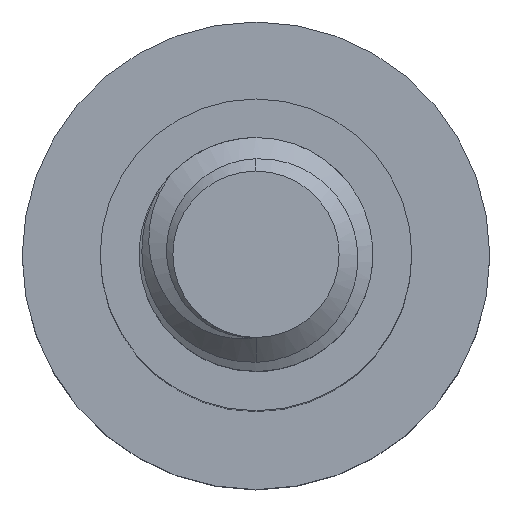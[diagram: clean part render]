
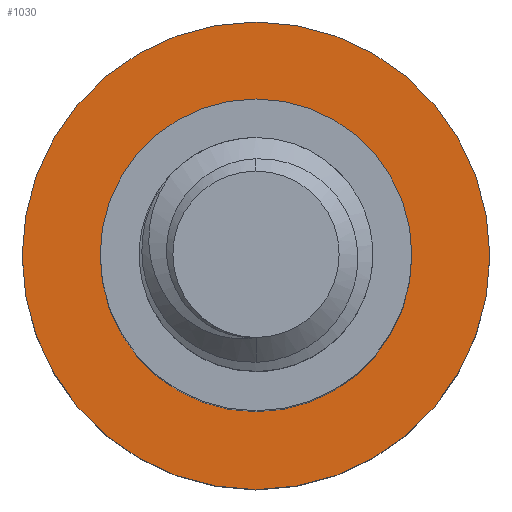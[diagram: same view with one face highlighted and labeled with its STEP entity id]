
A CAD part, top view. The second image highlights one B-rep face of the part: STEP entity #1030.
In plain terms, the highlighted planar face has unit normal (0, 0, 1).
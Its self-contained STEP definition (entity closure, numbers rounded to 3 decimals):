
#175 = EDGE_CURVE ( 'NONE', #2248, #490, #1281, .T. ) ;
#182 = CARTESIAN_POINT ( 'NONE',  ( 0., 0., -7. ) ) ;
#213 = DIRECTION ( 'NONE',  ( 0., 0., -1. ) ) ;
#221 = CARTESIAN_POINT ( 'NONE',  ( 2., 0., -7. ) ) ;
#371 = CARTESIAN_POINT ( 'NONE',  ( 3., 0., -7. ) ) ;
#388 = DIRECTION ( 'NONE',  ( -1., 0., 0. ) ) ;
#440 = ORIENTED_EDGE ( 'NONE', *, *, #1841, .F. ) ;
#462 = AXIS2_PLACEMENT_3D ( 'NONE', #1734, #2038, #488 ) ;
#465 = AXIS2_PLACEMENT_3D ( 'NONE', #1476, #1822, #1287 ) ;
#488 = DIRECTION ( 'NONE',  ( -1., 0., 0. ) ) ;
#490 = VERTEX_POINT ( 'NONE', #839 ) ;
#572 = AXIS2_PLACEMENT_3D ( 'NONE', #1775, #1592, #1917 ) ;
#576 = CARTESIAN_POINT ( 'NONE',  ( 0., 0., -7. ) ) ;
#577 = EDGE_LOOP ( 'NONE', ( #1056, #1498 ) ) ;
#604 = CIRCLE ( 'NONE', #462, 2. ) ;
#636 = CIRCLE ( 'NONE', #745, 3. ) ;
#662 = EDGE_LOOP ( 'NONE', ( #1269, #440 ) ) ;
#736 = FACE_BOUND ( 'NONE', #577, .T. ) ;
#743 = EDGE_CURVE ( 'NONE', #1357, #1575, #636, .T. ) ;
#745 = AXIS2_PLACEMENT_3D ( 'NONE', #576, #1042, #1737 ) ;
#839 = CARTESIAN_POINT ( 'NONE',  ( -2., 0., -7. ) ) ;
#847 = CIRCLE ( 'NONE', #465, 3. ) ;
#881 = PLANE ( 'NONE',  #572 ) ;
#1030 = ADVANCED_FACE ( 'NONE', ( #736, #1568 ), #881, .F. ) ;
#1042 = DIRECTION ( 'NONE',  ( 0., 0., -1. ) ) ;
#1056 = ORIENTED_EDGE ( 'NONE', *, *, #1188, .T. ) ;
#1188 = EDGE_CURVE ( 'NONE', #490, #2248, #604, .T. ) ;
#1214 = CARTESIAN_POINT ( 'NONE',  ( -3., 0., -7. ) ) ;
#1269 = ORIENTED_EDGE ( 'NONE', *, *, #743, .F. ) ;
#1281 = CIRCLE ( 'NONE', #1609, 2. ) ;
#1287 = DIRECTION ( 'NONE',  ( -1., 0., 0. ) ) ;
#1357 = VERTEX_POINT ( 'NONE', #371 ) ;
#1476 = CARTESIAN_POINT ( 'NONE',  ( 0., 0., -7. ) ) ;
#1498 = ORIENTED_EDGE ( 'NONE', *, *, #175, .T. ) ;
#1568 = FACE_OUTER_BOUND ( 'NONE', #662, .T. ) ;
#1575 = VERTEX_POINT ( 'NONE', #1214 ) ;
#1592 = DIRECTION ( 'NONE',  ( 0., 0., -1. ) ) ;
#1609 = AXIS2_PLACEMENT_3D ( 'NONE', #182, #213, #388 ) ;
#1734 = CARTESIAN_POINT ( 'NONE',  ( 0., 0., -7. ) ) ;
#1737 = DIRECTION ( 'NONE',  ( -1., 0., 0. ) ) ;
#1775 = CARTESIAN_POINT ( 'NONE',  ( 0., 0., -7. ) ) ;
#1822 = DIRECTION ( 'NONE',  ( 0., 0., -1. ) ) ;
#1841 = EDGE_CURVE ( 'NONE', #1575, #1357, #847, .T. ) ;
#1917 = DIRECTION ( 'NONE',  ( -1., 0., 0. ) ) ;
#2038 = DIRECTION ( 'NONE',  ( 0., 0., -1. ) ) ;
#2248 = VERTEX_POINT ( 'NONE', #221 ) ;
